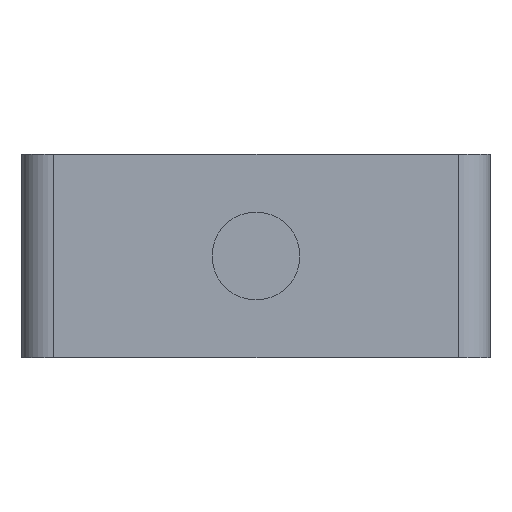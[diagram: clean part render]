
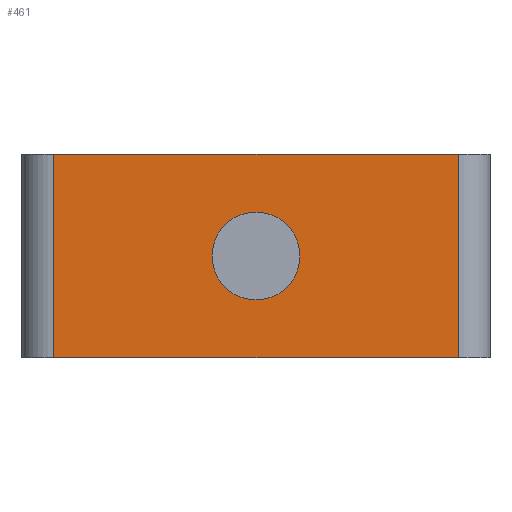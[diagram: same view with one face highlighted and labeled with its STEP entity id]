
A CAD part, left-side view. The second image highlights one B-rep face of the part: STEP entity #461.
In plain terms, the highlighted planar face has unit normal (-1, 0, 0).
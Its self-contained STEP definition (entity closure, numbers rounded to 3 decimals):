
#17=FACE_BOUND('',#86,.T.);
#35=PLANE('',#511);
#59=FACE_OUTER_BOUND('',#85,.T.);
#85=EDGE_LOOP('',(#427,#428,#429,#430));
#86=EDGE_LOOP('',(#431));
#87=LINE('',#643,#138);
#92=LINE('',#655,#143);
#107=LINE('',#687,#158);
#137=LINE('',#765,#188);
#138=VECTOR('',#518,10.);
#143=VECTOR('',#529,10.);
#158=VECTOR('',#548,10.);
#188=VECTOR('',#634,10.);
#195=CIRCLE('',#491,4.15);
#202=VERTEX_POINT('',#640);
#203=VERTEX_POINT('',#642);
#207=VERTEX_POINT('',#654);
#222=VERTEX_POINT('',#686);
#229=VERTEX_POINT('',#711);
#244=EDGE_CURVE('',#202,#203,#87,.T.);
#250=EDGE_CURVE('',#207,#203,#92,.T.);
#266=EDGE_CURVE('',#207,#222,#107,.T.);
#279=EDGE_CURVE('',#229,#229,#195,.T.);
#305=EDGE_CURVE('',#202,#222,#137,.T.);
#427=ORIENTED_EDGE('',*,*,#244,.F.);
#428=ORIENTED_EDGE('',*,*,#305,.T.);
#429=ORIENTED_EDGE('',*,*,#266,.F.);
#430=ORIENTED_EDGE('',*,*,#250,.T.);
#431=ORIENTED_EDGE('',*,*,#279,.T.);
#461=ADVANCED_FACE('',(#59,#17),#35,.F.);
#491=AXIS2_PLACEMENT_3D('',#712,#574,#575);
#511=AXIS2_PLACEMENT_3D('',#766,#635,#636);
#518=DIRECTION('',(0.,0.,1.));
#529=DIRECTION('',(0.,1.,0.));
#548=DIRECTION('',(0.,0.,-1.));
#574=DIRECTION('center_axis',(1.,0.,0.));
#575=DIRECTION('ref_axis',(0.,-1.,0.));
#634=DIRECTION('',(0.,-1.,0.));
#635=DIRECTION('center_axis',(1.,0.,0.));
#636=DIRECTION('ref_axis',(0.,1.,0.));
#640=CARTESIAN_POINT('',(4.,19.1,-9.6));
#642=CARTESIAN_POINT('',(4.,19.1,9.6));
#643=CARTESIAN_POINT('',(4.,19.1,-4.8));
#654=CARTESIAN_POINT('',(4.,-19.1,9.6));
#655=CARTESIAN_POINT('',(4.,-22.1,9.6));
#686=CARTESIAN_POINT('',(4.,-19.1,-9.6));
#687=CARTESIAN_POINT('',(4.,-19.1,4.8));
#711=CARTESIAN_POINT('',(4.,4.15,0.));
#712=CARTESIAN_POINT('Origin',(4.,0.,0.));
#765=CARTESIAN_POINT('',(4.,22.1,-9.6));
#766=CARTESIAN_POINT('Origin',(4.,0.,0.));
